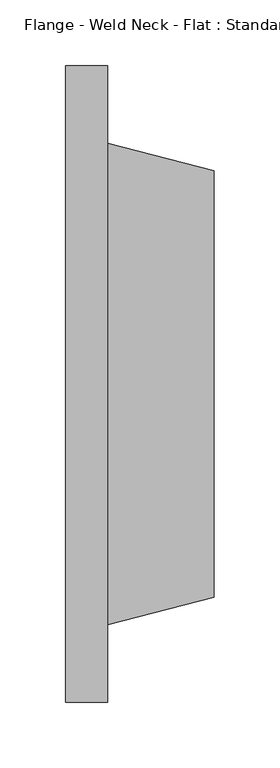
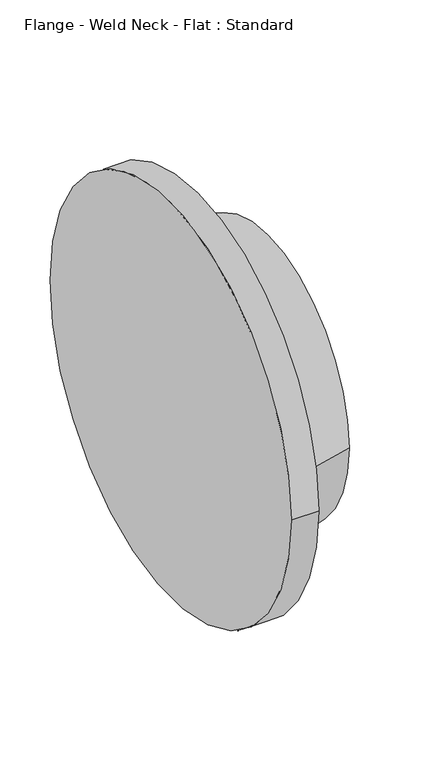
"""IFC4 building model written with IfcOpenShell, lengths in millimetres: valve geometry, Flange - Weld Neck - Flat : Standard."""

from ifc_helpers import new_model, si_unit, frame, origin, place, context, project, spatial, polyline, circle_curve, source, transform, mapped, element, save
from ifc_brep_helpers import plane_surface, cylinder_surface, revolved_surface, advanced_brep


def flange_weld_neck_flat_standard_f134ca54(model_context):
    return source(origin(), model_context, "Body", "AdvancedBrep", [
        advanced_brep(
        [(1.5875, -241.3, 0.0), (1.5875, 241.3, 0.0), (33.3375, -241.3, 0.0), (33.3375, 241.3, 0.0), (33.3375, 182.5625, 0.0), (33.3375, -182.5625, 0.0), (114.3, -161.925, 0.0), (114.3, 161.925, 0.0)],
        [
            (0, 1, circle_curve(frame((1.5875, 0.0, 0.0), z_axis=(-1.0, 0.0, 0.0), x_axis=(0.0, 1.0, 0.0)), 241.3)),
            (1, 0, circle_curve(frame((1.5875, 0.0, 0.0), z_axis=(-1.0, 0.0, 0.0), x_axis=(0.0, 1.0, 0.0)), 241.3)),
            (2, 3, circle_curve(frame((33.3375, 0.0, 0.0), z_axis=(1.0, 0.0, 0.0), x_axis=(0.0, 1.0, 0.0)), 241.3)),
            (3, 2, circle_curve(frame((33.3375, 0.0, 0.0), z_axis=(1.0, 0.0, 0.0), x_axis=(0.0, 1.0, 0.0)), 241.3)),
            (4, 5, circle_curve(frame((33.3375, 0.0, 0.0), z_axis=(-1.0, 0.0, 0.0), x_axis=(0.0, -1.0, 0.0)), 182.5625)),
            (5, 4, circle_curve(frame((33.3375, 0.0, 0.0), z_axis=(-1.0, 0.0, 0.0), x_axis=(0.0, 1.0, 0.0)), 182.5625)),
            (0, 2),
            (3, 1),
            (6, 7, circle_curve(frame((114.3, 0.0, 0.0), z_axis=(1.0, 0.0, 0.0), x_axis=(0.0, -1.0, 0.0)), 161.925)),
            (7, 6, circle_curve(frame((114.3, 0.0, 0.0), z_axis=(1.0, 0.0, 0.0), x_axis=(0.0, 1.0, 0.0)), 161.925)),
            (6, 5),
            (4, 7),
        ],
        [
            plane_surface(frame((1.5875, 0.0, 0.0), z_axis=(-1.0, 0.0, 0.0), x_axis=(0.0, 0.0, 1.0))),
            plane_surface(frame((33.3375, 0.0, 0.0), z_axis=(1.0, 0.0, 0.0), x_axis=(0.0, 0.0, 1.0))),
            cylinder_surface(frame((1.5875, 0.0, 0.0), z_axis=(-1.0, 0.0, 0.0), x_axis=(0.0, 1.0, 0.0)), 241.3),
            plane_surface(frame((114.3, 0.0, 0.0), z_axis=(1.0, 0.0, 0.0), x_axis=(0.0, 0.0, -1.0))),
            revolved_surface(polyline([(114.29999999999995, -161.92500000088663, 0.0), (33.33749999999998, -182.5625, 0.0)]), (749.5442308, 0.0, 0.0), (-1.0, 0.0, 0.0)),
            revolved_surface(polyline([(114.29999999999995, 161.92500000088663, 0.0), (33.33749999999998, 182.5625, 0.0)]), (749.5442308, 0.0, 0.0), (-1.0, 0.0, 0.0)),
        ],
        [
            (0, [[1, 2]]),
            (1, [[3, 4], [5, 6]]),
            (2, [[-1, 7, -4, 8]]),
            (2, [[-2, -8, -3, -7]]),
            (3, [[9, 10]]),
            (4, [[-9, 11, -5, 12]]),
            (5, [[-10, -12, -6, -11]]),
        ],
    ),
    ])


if __name__ == "__main__":
    model = new_model("IFC4")
    model_context = context("Model", 3, world=origin())
    ifc_project = project(units=[si_unit("LENGTHUNIT", "METRE", prefix="MILLI")], contexts=[model_context])
    site = spatial("IfcSite", under=ifc_project)
    building = spatial("IfcBuilding", under=site)
    placement = place(None, origin())
    flange_weld_neck_flat_standard_shape = flange_weld_neck_flat_standard_f134ca54(model_context)
    element("IfcValve", 1, ObjectType="Flange - Weld Neck - Flat : Standard", at=placement, inside=building, context=model_context, shape_type="MappedRepresentation", body=[
        mapped(flange_weld_neck_flat_standard_shape, transform((0.0, 0.0, 0.0), x_axis=(1.0, 0.0, 0.0), y_axis=(0.0, 1.0, 0.0), z_axis=(0.0, 0.0, 1.0))),
    ])
    save(model, "model.ifc")
